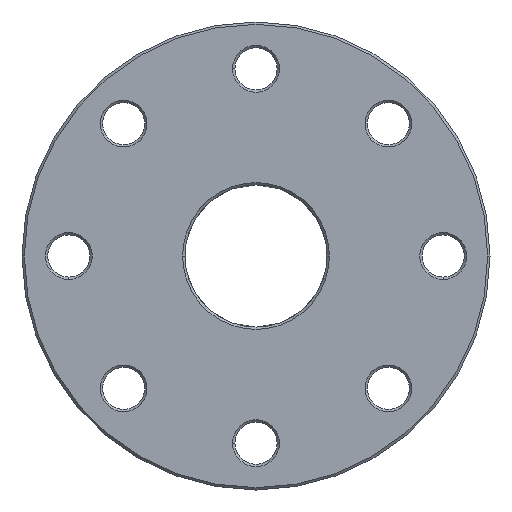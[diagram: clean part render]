
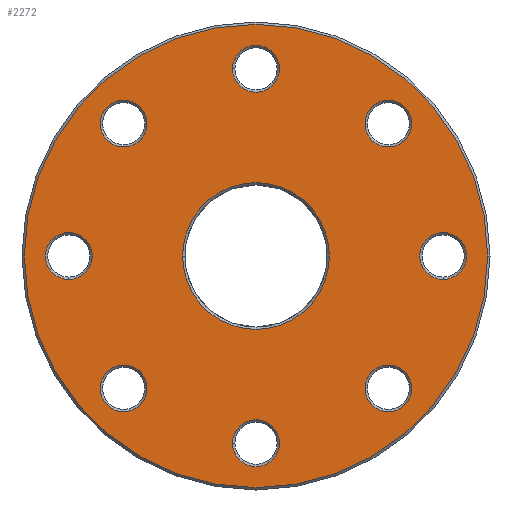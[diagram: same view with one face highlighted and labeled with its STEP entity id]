
A CAD part, front view. The second image highlights one B-rep face of the part: STEP entity #2272.
In plain terms, the highlighted planar face has unit normal (0, -1, 0).
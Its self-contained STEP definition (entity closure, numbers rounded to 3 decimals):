
#646=CARTESIAN_POINT('',(0.,-5.896,0.));
#647=DIRECTION('',(0.,1.,0.));
#648=DIRECTION('',(1.,0.,0.));
#649=AXIS2_PLACEMENT_3D('',#646,#647,#648);
#654=CARTESIAN_POINT('',(0.,-5.896,0.));
#655=DIRECTION('',(0.,1.,0.));
#656=DIRECTION('',(-1.,0.,0.));
#657=AXIS2_PLACEMENT_3D('',#654,#655,#656);
#662=CARTESIAN_POINT('',(0.,-5.896,0.));
#663=DIRECTION('',(0.,-1.,0.));
#664=DIRECTION('',(-1.,0.,0.));
#665=AXIS2_PLACEMENT_3D('',#662,#663,#664);
#670=CARTESIAN_POINT('',(0.,-5.896,0.));
#671=DIRECTION('',(0.,-1.,0.));
#672=DIRECTION('',(1.,0.,0.));
#673=AXIS2_PLACEMENT_3D('',#670,#671,#672);
#678=CARTESIAN_POINT('',(-80.,-5.896,0.));
#679=DIRECTION('',(0.,1.,0.));
#680=DIRECTION('',(0.,0.,1.));
#681=AXIS2_PLACEMENT_3D('',#678,#679,#680);
#686=CARTESIAN_POINT('',(-80.,-5.896,0.));
#687=DIRECTION('',(0.,1.,0.));
#688=DIRECTION('',(0.,0.,-1.));
#689=AXIS2_PLACEMENT_3D('',#686,#687,#688);
#694=CARTESIAN_POINT('',(-56.569,-5.896,-56.569));
#695=DIRECTION('',(0.,1.,0.));
#696=DIRECTION('',(0.707,0.,-0.707));
#697=AXIS2_PLACEMENT_3D('',#694,#695,#696);
#702=CARTESIAN_POINT('',(-56.569,-5.896,-56.569));
#703=DIRECTION('',(0.,1.,0.));
#704=DIRECTION('',(-0.707,0.,0.707));
#705=AXIS2_PLACEMENT_3D('',#702,#703,#704);
#710=CARTESIAN_POINT('',(0.,-5.896,-80.));
#711=DIRECTION('',(0.,1.,0.));
#712=DIRECTION('',(1.,0.,0.));
#713=AXIS2_PLACEMENT_3D('',#710,#711,#712);
#718=CARTESIAN_POINT('',(0.,-5.896,-80.));
#719=DIRECTION('',(0.,1.,0.));
#720=DIRECTION('',(-1.,0.,0.));
#721=AXIS2_PLACEMENT_3D('',#718,#719,#720);
#726=CARTESIAN_POINT('',(56.569,-5.896,-56.569));
#727=DIRECTION('',(0.,1.,0.));
#728=DIRECTION('',(0.707,0.,0.707));
#729=AXIS2_PLACEMENT_3D('',#726,#727,#728);
#734=CARTESIAN_POINT('',(56.569,-5.896,-56.569));
#735=DIRECTION('',(0.,1.,0.));
#736=DIRECTION('',(-0.707,0.,-0.707));
#737=AXIS2_PLACEMENT_3D('',#734,#735,#736);
#742=CARTESIAN_POINT('',(80.,-5.896,0.));
#743=DIRECTION('',(0.,1.,0.));
#744=DIRECTION('',(0.,0.,1.));
#745=AXIS2_PLACEMENT_3D('',#742,#743,#744);
#750=CARTESIAN_POINT('',(80.,-5.896,0.));
#751=DIRECTION('',(0.,1.,0.));
#752=DIRECTION('',(0.,0.,-1.));
#753=AXIS2_PLACEMENT_3D('',#750,#751,#752);
#758=CARTESIAN_POINT('',(56.569,-5.896,56.569));
#759=DIRECTION('',(0.,1.,0.));
#760=DIRECTION('',(-0.707,0.,0.707));
#761=AXIS2_PLACEMENT_3D('',#758,#759,#760);
#766=CARTESIAN_POINT('',(56.569,-5.896,56.569));
#767=DIRECTION('',(0.,1.,0.));
#768=DIRECTION('',(0.707,0.,-0.707));
#769=AXIS2_PLACEMENT_3D('',#766,#767,#768);
#774=CARTESIAN_POINT('',(0.,-5.896,80.));
#775=DIRECTION('',(0.,1.,0.));
#776=DIRECTION('',(1.,0.,0.));
#777=AXIS2_PLACEMENT_3D('',#774,#775,#776);
#782=CARTESIAN_POINT('',(0.,-5.896,80.));
#783=DIRECTION('',(0.,1.,0.));
#784=DIRECTION('',(-1.,0.,0.));
#785=AXIS2_PLACEMENT_3D('',#782,#783,#784);
#790=CARTESIAN_POINT('',(-56.569,-5.896,56.569));
#791=DIRECTION('',(0.,1.,0.));
#792=DIRECTION('',(0.707,0.,0.707));
#793=AXIS2_PLACEMENT_3D('',#790,#791,#792);
#798=CARTESIAN_POINT('',(-56.569,-5.896,56.569));
#799=DIRECTION('',(0.,1.,0.));
#800=DIRECTION('',(-0.707,0.,-0.707));
#801=AXIS2_PLACEMENT_3D('',#798,#799,#800);
#1593=CARTESIAN_POINT('',(31.356,-5.896,0.));
#1594=CARTESIAN_POINT('',(-31.356,-5.896,0.));
#1595=VERTEX_POINT('',#1593);
#1596=VERTEX_POINT('',#1594);
#1609=CARTESIAN_POINT('',(-99.,-5.896,0.));
#1610=CARTESIAN_POINT('',(99.,-5.896,0.));
#1611=VERTEX_POINT('',#1609);
#1612=VERTEX_POINT('',#1610);
#1617=CARTESIAN_POINT('',(-80.,-5.896,10.));
#1618=CARTESIAN_POINT('',(-80.,-5.896,-10.));
#1619=VERTEX_POINT('',#1617);
#1620=VERTEX_POINT('',#1618);
#1625=CARTESIAN_POINT('',(-49.497,-5.896,-63.64));
#1626=CARTESIAN_POINT('',(-63.64,-5.896,-49.497));
#1627=VERTEX_POINT('',#1625);
#1628=VERTEX_POINT('',#1626);
#1633=CARTESIAN_POINT('',(10.,-5.896,-80.));
#1634=CARTESIAN_POINT('',(-10.,-5.896,-80.));
#1635=VERTEX_POINT('',#1633);
#1636=VERTEX_POINT('',#1634);
#1641=CARTESIAN_POINT('',(63.64,-5.896,-49.497));
#1642=CARTESIAN_POINT('',(49.497,-5.896,-63.64));
#1643=VERTEX_POINT('',#1641);
#1644=VERTEX_POINT('',#1642);
#1649=CARTESIAN_POINT('',(80.,-5.896,10.));
#1650=CARTESIAN_POINT('',(80.,-5.896,-10.));
#1651=VERTEX_POINT('',#1649);
#1652=VERTEX_POINT('',#1650);
#1657=CARTESIAN_POINT('',(49.497,-5.896,63.64));
#1658=CARTESIAN_POINT('',(63.64,-5.896,49.497));
#1659=VERTEX_POINT('',#1657);
#1660=VERTEX_POINT('',#1658);
#1665=CARTESIAN_POINT('',(10.,-5.896,80.));
#1666=CARTESIAN_POINT('',(-10.,-5.896,80.));
#1667=VERTEX_POINT('',#1665);
#1668=VERTEX_POINT('',#1666);
#1673=CARTESIAN_POINT('',(-49.497,-5.896,63.64));
#1674=CARTESIAN_POINT('',(-63.64,-5.896,49.497));
#1675=VERTEX_POINT('',#1673);
#1676=VERTEX_POINT('',#1674);
#2208=CARTESIAN_POINT('',(0.,-5.896,0.));
#2209=DIRECTION('',(0.,-1.,0.));
#2210=DIRECTION('',(1.,0.,0.));
#2211=AXIS2_PLACEMENT_3D('',#2208,#2209,#2210);
#2212=PLANE('',#2211);
#2214=ORIENTED_EDGE('',*,*,#2213,.F.);
#2216=ORIENTED_EDGE('',*,*,#2215,.F.);
#2217=EDGE_LOOP('',(#2214,#2216));
#2218=FACE_OUTER_BOUND('',#2217,.F.);
#2220=ORIENTED_EDGE('',*,*,#2219,.F.);
#2221=ORIENTED_EDGE('',*,*,#2198,.F.);
#2222=EDGE_LOOP('',(#2220,#2221));
#2223=FACE_BOUND('',#2222,.F.);
#2225=ORIENTED_EDGE('',*,*,#2224,.F.);
#2227=ORIENTED_EDGE('',*,*,#2226,.F.);
#2228=EDGE_LOOP('',(#2225,#2227));
#2229=FACE_BOUND('',#2228,.F.);
#2231=ORIENTED_EDGE('',*,*,#2230,.F.);
#2233=ORIENTED_EDGE('',*,*,#2232,.F.);
#2234=EDGE_LOOP('',(#2231,#2233));
#2235=FACE_BOUND('',#2234,.F.);
#2237=ORIENTED_EDGE('',*,*,#2236,.F.);
#2239=ORIENTED_EDGE('',*,*,#2238,.F.);
#2240=EDGE_LOOP('',(#2237,#2239));
#2241=FACE_BOUND('',#2240,.F.);
#2243=ORIENTED_EDGE('',*,*,#2242,.F.);
#2245=ORIENTED_EDGE('',*,*,#2244,.F.);
#2246=EDGE_LOOP('',(#2243,#2245));
#2247=FACE_BOUND('',#2246,.F.);
#2249=ORIENTED_EDGE('',*,*,#2248,.F.);
#2251=ORIENTED_EDGE('',*,*,#2250,.F.);
#2252=EDGE_LOOP('',(#2249,#2251));
#2253=FACE_BOUND('',#2252,.F.);
#2255=ORIENTED_EDGE('',*,*,#2254,.F.);
#2257=ORIENTED_EDGE('',*,*,#2256,.F.);
#2258=EDGE_LOOP('',(#2255,#2257));
#2259=FACE_BOUND('',#2258,.F.);
#2261=ORIENTED_EDGE('',*,*,#2260,.F.);
#2263=ORIENTED_EDGE('',*,*,#2262,.F.);
#2264=EDGE_LOOP('',(#2261,#2263));
#2265=FACE_BOUND('',#2264,.F.);
#2267=ORIENTED_EDGE('',*,*,#2266,.F.);
#2269=ORIENTED_EDGE('',*,*,#2268,.F.);
#2270=EDGE_LOOP('',(#2267,#2269));
#2271=FACE_BOUND('',#2270,.F.);
#650=CIRCLE('',#649,31.356);
#658=CIRCLE('',#657,31.356);
#666=CIRCLE('',#665,99.);
#674=CIRCLE('',#673,99.);
#682=CIRCLE('',#681,10.);
#690=CIRCLE('',#689,10.);
#698=CIRCLE('',#697,10.);
#706=CIRCLE('',#705,10.);
#714=CIRCLE('',#713,10.);
#722=CIRCLE('',#721,10.);
#730=CIRCLE('',#729,10.);
#738=CIRCLE('',#737,10.);
#746=CIRCLE('',#745,10.);
#754=CIRCLE('',#753,10.);
#762=CIRCLE('',#761,10.);
#770=CIRCLE('',#769,10.);
#778=CIRCLE('',#777,10.);
#786=CIRCLE('',#785,10.);
#794=CIRCLE('',#793,10.);
#802=CIRCLE('',#801,10.);
#2198=EDGE_CURVE('',#1596,#1595,#658,.T.);
#2213=EDGE_CURVE('',#1611,#1612,#666,.T.);
#2215=EDGE_CURVE('',#1612,#1611,#674,.T.);
#2219=EDGE_CURVE('',#1595,#1596,#650,.T.);
#2224=EDGE_CURVE('',#1619,#1620,#682,.T.);
#2226=EDGE_CURVE('',#1620,#1619,#690,.T.);
#2230=EDGE_CURVE('',#1627,#1628,#698,.T.);
#2232=EDGE_CURVE('',#1628,#1627,#706,.T.);
#2236=EDGE_CURVE('',#1635,#1636,#714,.T.);
#2238=EDGE_CURVE('',#1636,#1635,#722,.T.);
#2242=EDGE_CURVE('',#1643,#1644,#730,.T.);
#2244=EDGE_CURVE('',#1644,#1643,#738,.T.);
#2248=EDGE_CURVE('',#1651,#1652,#746,.T.);
#2250=EDGE_CURVE('',#1652,#1651,#754,.T.);
#2254=EDGE_CURVE('',#1659,#1660,#762,.T.);
#2256=EDGE_CURVE('',#1660,#1659,#770,.T.);
#2260=EDGE_CURVE('',#1667,#1668,#778,.T.);
#2262=EDGE_CURVE('',#1668,#1667,#786,.T.);
#2266=EDGE_CURVE('',#1675,#1676,#794,.T.);
#2268=EDGE_CURVE('',#1676,#1675,#802,.T.);
#2272=ADVANCED_FACE('',(#2218,#2223,#2229,#2235,#2241,#2247,#2253,#2259,#2265,
#2271),#2212,.T.);
